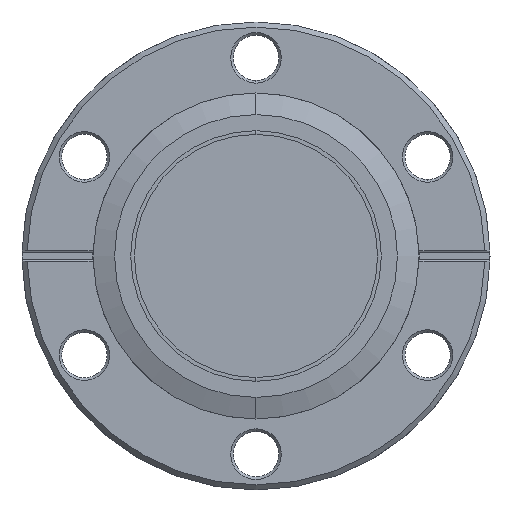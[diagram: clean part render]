
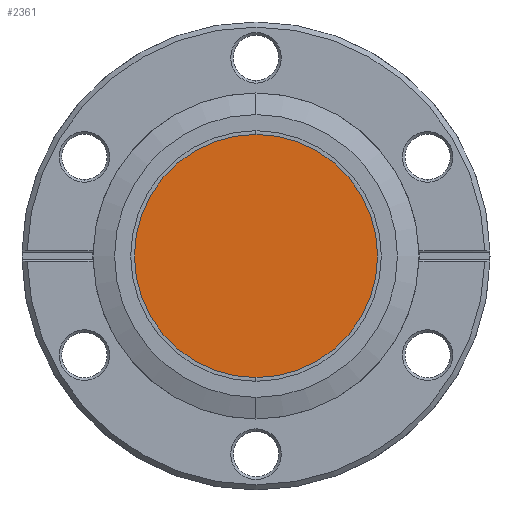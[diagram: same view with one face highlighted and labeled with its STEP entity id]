
A CAD part, left-side view. The second image highlights one B-rep face of the part: STEP entity #2361.
In plain terms, the highlighted planar face has unit normal (-1, 0, 0).
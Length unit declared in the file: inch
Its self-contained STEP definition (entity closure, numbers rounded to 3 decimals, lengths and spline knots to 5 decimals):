
#57 = EDGE_LOOP ( 'NONE', ( #1674, #1654 ) ) ;
#476 = AXIS2_PLACEMENT_3D ( 'NONE', #1351, #1353, #1355 ) ;
#501 = AXIS2_PLACEMENT_3D ( 'NONE', #984, #985, #986 ) ;
#591 = AXIS2_PLACEMENT_3D ( 'NONE', #866, #871, #872 ) ;
#866 = CARTESIAN_POINT ( 'NONE',  ( 0.354, 0., 0. ) ) ;
#868 = PLANE ( 'NONE',  #591 ) ;
#871 = DIRECTION ( 'NONE',  ( 1., 0., 0. ) ) ;
#872 = DIRECTION ( 'NONE',  ( 0., 1., 0. ) ) ;
#984 = CARTESIAN_POINT ( 'NONE',  ( 0.354, 0., 0. ) ) ;
#985 = DIRECTION ( 'NONE',  ( -1., 0., 0. ) ) ;
#986 = DIRECTION ( 'NONE',  ( 0., 0., 1. ) ) ;
#1265 = CIRCLE ( 'NONE', #501, 0.709 ) ;
#1275 = CARTESIAN_POINT ( 'NONE',  ( 0.354, 0., -0.709 ) ) ;
#1285 = CARTESIAN_POINT ( 'NONE',  ( 0.354, 0., 0.709 ) ) ;
#1351 = CARTESIAN_POINT ( 'NONE',  ( 0.354, 0., 0. ) ) ;
#1353 = DIRECTION ( 'NONE',  ( -1., 0., 0. ) ) ;
#1355 = DIRECTION ( 'NONE',  ( 0., 0., 1. ) ) ;
#1599 = FACE_OUTER_BOUND ( 'NONE', #57, .T. ) ;
#1654 = ORIENTED_EDGE ( 'NONE', *, *, #2097, .T. ) ;
#1674 = ORIENTED_EDGE ( 'NONE', *, *, #2031, .T. ) ;
#1791 = VERTEX_POINT ( 'NONE', #1275 ) ;
#1798 = VERTEX_POINT ( 'NONE', #1285 ) ;
#2031 = EDGE_CURVE ( 'NONE', #1798, #1791, #2241, .T. ) ;
#2097 = EDGE_CURVE ( 'NONE', #1791, #1798, #1265, .T. ) ;
#2241 = CIRCLE ( 'NONE', #476, 0.709 ) ;
#2361 = ADVANCED_FACE ( 'NONE', ( #1599 ), #868, .F. ) ;
